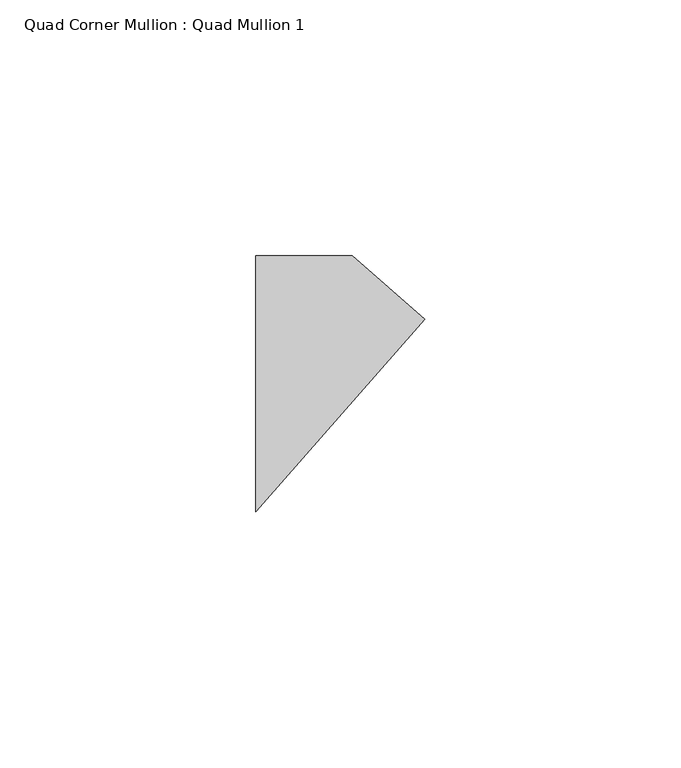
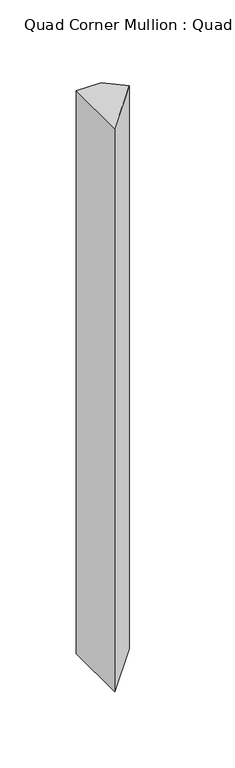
"""IFC4 building model written with IfcOpenShell, lengths in millimetres: member geometry, Quad Corner Mullion : Quad Mullion 1."""

from ifc_helpers import new_model, si_unit, frame, origin, place, context, project, spatial, polyline, outline, extrude, source, transform, mapped, element, save


def quad_corner_mullion_quad_mullion_1_d2ab6ab6(model_context):
    return source(origin(), model_context, "Body", "SweptSolid", [
        extrude(outline(polyline([(23.5710612, 12.5734516), (-9.417357, -25.0), (-9.417357, 25.0), (9.417357, 25.0), (23.5710612, 12.5734516)])), frame((0.0, 0.0, -450.0), z_axis=(0.0, 0.0, 1.0), x_axis=(1.0, 0.0, 0.0)), (0.0, 0.0, 1.0), 450.0),
    ])


if __name__ == "__main__":
    model = new_model("IFC4")
    model_context = context("Model", 3, world=origin())
    ifc_project = project(units=[si_unit("LENGTHUNIT", "METRE", prefix="MILLI")], contexts=[model_context])
    site = spatial("IfcSite", under=ifc_project)
    building = spatial("IfcBuilding", under=site)
    placement = place(None, origin())
    quad_corner_mullion_quad_mullion_1_shape = quad_corner_mullion_quad_mullion_1_d2ab6ab6(model_context)
    element("IfcMember", 1, ObjectType="Quad Corner Mullion : Quad Mullion 1", at=placement, inside=building, context=model_context, shape_type="MappedRepresentation", body=[
        mapped(quad_corner_mullion_quad_mullion_1_shape, transform((0.0, 0.0, 0.0), x_axis=(1.0, 0.0, 0.0), y_axis=(0.0, 1.0, 0.0), z_axis=(0.0, 0.0, 1.0))),
    ])
    save(model, "model.ifc")
